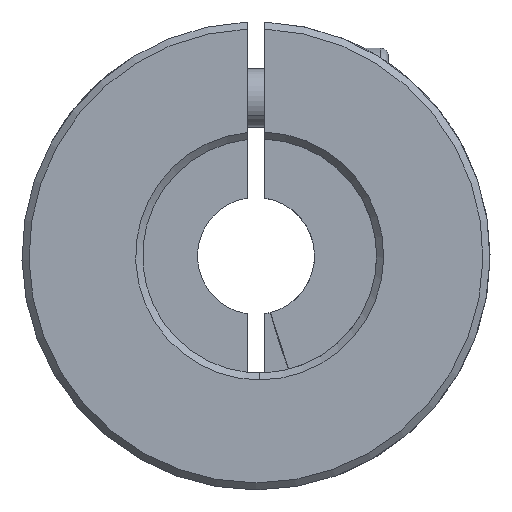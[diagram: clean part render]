
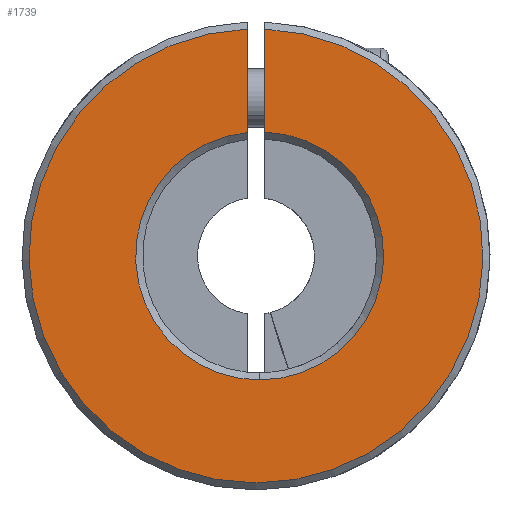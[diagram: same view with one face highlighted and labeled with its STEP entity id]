
A CAD part, front view. The second image highlights one B-rep face of the part: STEP entity #1739.
In plain terms, the highlighted planar face has unit normal (0, -1, 0).
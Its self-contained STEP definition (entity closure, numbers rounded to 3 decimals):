
#21 = CARTESIAN_POINT ( 'NONE',  ( -0.75, -30., 10.546 ) ) ;
#187 = DIRECTION ( 'NONE',  ( 0., 1., 0. ) ) ;
#241 = PLANE ( 'NONE',  #5333 ) ;
#790 = VERTEX_POINT ( 'NONE', #3949 ) ;
#812 = CARTESIAN_POINT ( 'NONE',  ( 0.75, -30., 19.385 ) ) ;
#958 = LINE ( 'NONE', #5263, #2270 ) ;
#1004 = AXIS2_PLACEMENT_3D ( 'NONE', #4009, #3885, #4957 ) ;
#1169 = DIRECTION ( 'NONE',  ( 0., 1., 0. ) ) ;
#1444 = VERTEX_POINT ( 'NONE', #5122 ) ;
#1462 = VERTEX_POINT ( 'NONE', #5067 ) ;
#1696 = CARTESIAN_POINT ( 'NONE',  ( 0.314, -30., 0. ) ) ;
#1739 = ADVANCED_FACE ( 'NONE', ( #4877 ), #241, .F. ) ;
#1753 = DIRECTION ( 'NONE',  ( 0., -1., 0. ) ) ;
#1817 = CIRCLE ( 'NONE', #4183, 19.4 ) ;
#1929 = ORIENTED_EDGE ( 'NONE', *, *, #3519, .T. ) ;
#2104 = CIRCLE ( 'NONE', #6010, 10.6 ) ;
#2108 = EDGE_CURVE ( 'NONE', #1462, #790, #2564, .T. ) ;
#2270 = VECTOR ( 'NONE', #3322, 1000. ) ;
#2310 = DIRECTION ( 'NONE',  ( 0., 0., 1. ) ) ;
#2336 = LINE ( 'NONE', #3304, #2862 ) ;
#2564 = CIRCLE ( 'NONE', #1004, 10.6 ) ;
#2729 = DIRECTION ( 'NONE',  ( 0., 0., 1. ) ) ;
#2862 = VECTOR ( 'NONE', #2310, 1000. ) ;
#3136 = ORIENTED_EDGE ( 'NONE', *, *, #2108, .T. ) ;
#3304 = CARTESIAN_POINT ( 'NONE',  ( -0.75, -30., -10. ) ) ;
#3322 = DIRECTION ( 'NONE',  ( 0., 0., -1. ) ) ;
#3450 = DIRECTION ( 'NONE',  ( 0., 0., 1. ) ) ;
#3487 = CARTESIAN_POINT ( 'NONE',  ( 0., -30., 0. ) ) ;
#3519 = EDGE_CURVE ( 'NONE', #5803, #1462, #958, .T. ) ;
#3885 = DIRECTION ( 'NONE',  ( 0., 1., 0. ) ) ;
#3949 = CARTESIAN_POINT ( 'NONE',  ( 0.314, -30., -10.6 ) ) ;
#3957 = ORIENTED_EDGE ( 'NONE', *, *, #5550, .T. ) ;
#4009 = CARTESIAN_POINT ( 'NONE',  ( 0.314, -30., 0. ) ) ;
#4152 = CARTESIAN_POINT ( 'NONE',  ( 0., -30., 0. ) ) ;
#4183 = AXIS2_PLACEMENT_3D ( 'NONE', #4152, #1753, #2729 ) ;
#4318 = EDGE_CURVE ( 'NONE', #4329, #1444, #2336, .T. ) ;
#4329 = VERTEX_POINT ( 'NONE', #21 ) ;
#4438 = DIRECTION ( 'NONE',  ( 0., 0., 1. ) ) ;
#4674 = ORIENTED_EDGE ( 'NONE', *, *, #4318, .T. ) ;
#4877 = FACE_OUTER_BOUND ( 'NONE', #4911, .T. ) ;
#4911 = EDGE_LOOP ( 'NONE', ( #1929, #3136, #5222, #4674, #3957 ) ) ;
#4957 = DIRECTION ( 'NONE',  ( 0., 0., 1. ) ) ;
#4968 = EDGE_CURVE ( 'NONE', #790, #4329, #2104, .T. ) ;
#5067 = CARTESIAN_POINT ( 'NONE',  ( 0.75, -30., 10.591 ) ) ;
#5122 = CARTESIAN_POINT ( 'NONE',  ( -0.75, -30., 19.385 ) ) ;
#5222 = ORIENTED_EDGE ( 'NONE', *, *, #4968, .T. ) ;
#5263 = CARTESIAN_POINT ( 'NONE',  ( 0.75, -30., -10. ) ) ;
#5333 = AXIS2_PLACEMENT_3D ( 'NONE', #3487, #187, #3450 ) ;
#5550 = EDGE_CURVE ( 'NONE', #1444, #5803, #1817, .T. ) ;
#5803 = VERTEX_POINT ( 'NONE', #812 ) ;
#6010 = AXIS2_PLACEMENT_3D ( 'NONE', #1696, #1169, #4438 ) ;
